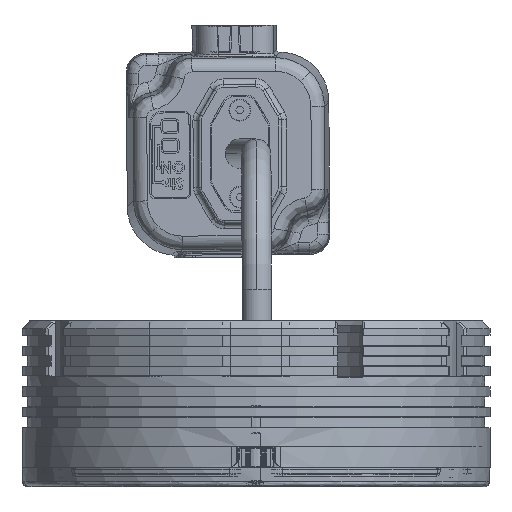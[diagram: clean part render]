
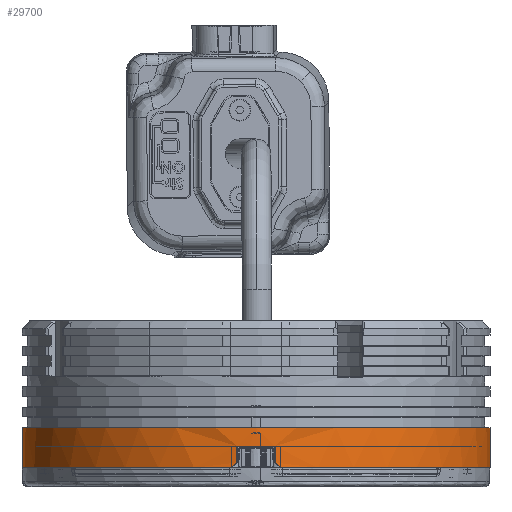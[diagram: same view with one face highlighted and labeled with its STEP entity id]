
A CAD part, front view. The second image highlights one B-rep face of the part: STEP entity #29700.
In plain terms, the highlighted cylindrical face has radius 43 mm (diameter 86 mm), a partial arc.
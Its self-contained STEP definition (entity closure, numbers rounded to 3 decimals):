
#1900 = DIRECTION ( 'NONE',  ( 1., 0., 0. ) ) ;
#3921 = CARTESIAN_POINT ( 'NONE',  ( -4.496, -42.764, 0. ) ) ;
#5030 = CIRCLE ( 'NONE', #51792, 43. ) ;
#7125 = CIRCLE ( 'NONE', #73457, 43. ) ;
#10443 = EDGE_CURVE ( 'NONE', #12827, #28230, #7125, .T. ) ;
#10616 = ORIENTED_EDGE ( 'NONE', *, *, #36300, .T. ) ;
#11012 = VERTEX_POINT ( 'NONE', #57530 ) ;
#12827 = VERTEX_POINT ( 'NONE', #48636 ) ;
#12965 = VERTEX_POINT ( 'NONE', #42457 ) ;
#13405 = EDGE_CURVE ( 'NONE', #31465, #12965, #59295, .T. ) ;
#17021 = CARTESIAN_POINT ( 'NONE',  ( 0., 0., 0. ) ) ;
#18878 = DIRECTION ( 'NONE',  ( 0., 0., -1. ) ) ;
#23086 = CARTESIAN_POINT ( 'NONE',  ( 0., 0., 0. ) ) ;
#23278 = ORIENTED_EDGE ( 'NONE', *, *, #67268, .T. ) ;
#23453 = ORIENTED_EDGE ( 'NONE', *, *, #65893, .F. ) ;
#23581 = VECTOR ( 'NONE', #87614, 1000. ) ;
#25293 = LINE ( 'NONE', #54153, #32770 ) ;
#26464 =( BOUNDED_CURVE ( )  B_SPLINE_CURVE ( 3, ( #3921, #39768, #47829, #68610 ),
 .UNSPECIFIED., .F., .F. ) 
 B_SPLINE_CURVE_WITH_KNOTS ( ( 4, 4 ),
 ( 1.548, 1.571 ),
 .UNSPECIFIED. ) 
 CURVE ( )  GEOMETRIC_REPRESENTATION_ITEM ( )  RATIONAL_B_SPLINE_CURVE ( ( 1., 1., 1., 1. ) ) 
 REPRESENTATION_ITEM ( '' )  );
#28230 = VERTEX_POINT ( 'NONE', #37341 ) ;
#29700 = ADVANCED_FACE ( 'NONE', ( #65015 ), #50392, .T. ) ;
#30067 = VECTOR ( 'NONE', #55254, 1000. ) ;
#31465 = VERTEX_POINT ( 'NONE', #55564 ) ;
#32770 = VECTOR ( 'NONE', #88572, 1000. ) ;
#33058 = CARTESIAN_POINT ( 'NONE',  ( 0., 0., 27. ) ) ;
#33170 = EDGE_LOOP ( 'NONE', ( #61083, #48446, #23278, #61272, #80008, #87154, #23453, #59296, #10616, #92007 ) ) ;
#33321 = DIRECTION ( 'NONE',  ( 0., 0., -1. ) ) ;
#34069 = VERTEX_POINT ( 'NONE', #89111 ) ;
#35243 = VERTEX_POINT ( 'NONE', #61896 ) ;
#36300 = EDGE_CURVE ( 'NONE', #72651, #34069, #91170, .T. ) ;
#37341 = CARTESIAN_POINT ( 'NONE',  ( -4.496, -42.764, 0. ) ) ;
#37402 = CIRCLE ( 'NONE', #57012, 43. ) ;
#37541 = AXIS2_PLACEMENT_3D ( 'NONE', #69316, #48043, #62226 ) ;
#37676 = EDGE_CURVE ( 'NONE', #86673, #11012, #91826, .T. ) ;
#37821 = DIRECTION ( 'NONE',  ( 0., 0., 1. ) ) ;
#38322 = EDGE_CURVE ( 'NONE', #85130, #72651, #62351, .T. ) ;
#39768 = CARTESIAN_POINT ( 'NONE',  ( -4.164, -42.799, 0.333 ) ) ;
#40333 = VECTOR ( 'NONE', #33321, 1000. ) ;
#40618 = DIRECTION ( 'NONE',  ( -1., 0., 0. ) ) ;
#42457 = CARTESIAN_POINT ( 'NONE',  ( -3.5, -42.857, 1. ) ) ;
#45377 = CARTESIAN_POINT ( 'NONE',  ( 4.496, -42.764, 0. ) ) ;
#46438 = AXIS2_PLACEMENT_3D ( 'NONE', #33058, #72108, #40618 ) ;
#47829 = CARTESIAN_POINT ( 'NONE',  ( -3.832, -42.83, 0.667 ) ) ;
#48043 = DIRECTION ( 'NONE',  ( 0., 0., 1. ) ) ;
#48446 = ORIENTED_EDGE ( 'NONE', *, *, #37676, .F. ) ;
#48636 = CARTESIAN_POINT ( 'NONE',  ( -43., 0., 0. ) ) ;
#49377 = LINE ( 'NONE', #85704, #40333 ) ;
#50392 = CYLINDRICAL_SURFACE ( 'NONE', #46438, 43. ) ;
#51021 = DIRECTION ( 'NONE',  ( 0., 0., 1. ) ) ;
#51308 = CARTESIAN_POINT ( 'NONE',  ( -3.5, -42.857, 4. ) ) ;
#51792 = AXIS2_PLACEMENT_3D ( 'NONE', #17021, #37821, #60032 ) ;
#54153 = CARTESIAN_POINT ( 'NONE',  ( -43., 0., 27. ) ) ;
#54358 = CARTESIAN_POINT ( 'NONE',  ( 3.5, -42.857, 1. ) ) ;
#55254 = DIRECTION ( 'NONE',  ( 0., 0., -1. ) ) ;
#55564 = CARTESIAN_POINT ( 'NONE',  ( -3.5, -42.857, 4. ) ) ;
#57012 = AXIS2_PLACEMENT_3D ( 'NONE', #75116, #18878, #83584 ) ;
#57450 = CARTESIAN_POINT ( 'NONE',  ( 3.5, -42.857, 4. ) ) ;
#57530 = CARTESIAN_POINT ( 'NONE',  ( 43., 0., 7.4 ) ) ;
#59296 = ORIENTED_EDGE ( 'NONE', *, *, #38322, .T. ) ;
#59295 = LINE ( 'NONE', #51308, #23581 ) ;
#60032 = DIRECTION ( 'NONE',  ( 1., 0., 0. ) ) ;
#60484 = CARTESIAN_POINT ( 'NONE',  ( 4.164, -42.799, 0.333 ) ) ;
#61083 = ORIENTED_EDGE ( 'NONE', *, *, #67374, .F. ) ;
#61272 = ORIENTED_EDGE ( 'NONE', *, *, #10443, .T. ) ;
#61896 = CARTESIAN_POINT ( 'NONE',  ( 43., 0., 0. ) ) ;
#62226 = DIRECTION ( 'NONE',  ( 1., 0., 0. ) ) ;
#62351 = LINE ( 'NONE', #91099, #30067 ) ;
#65015 = FACE_OUTER_BOUND ( 'NONE', #33170, .T. ) ;
#65893 = EDGE_CURVE ( 'NONE', #85130, #31465, #37402, .T. ) ;
#67268 = EDGE_CURVE ( 'NONE', #86673, #12827, #25293, .T. ) ;
#67374 = EDGE_CURVE ( 'NONE', #11012, #35243, #49377, .T. ) ;
#68610 = CARTESIAN_POINT ( 'NONE',  ( -3.5, -42.857, 1. ) ) ;
#69316 = CARTESIAN_POINT ( 'NONE',  ( 0., 0., 7.4 ) ) ;
#71103 = EDGE_CURVE ( 'NONE', #28230, #12965, #26464, .T. ) ;
#72108 = DIRECTION ( 'NONE',  ( 0., 0., -1. ) ) ;
#72651 = VERTEX_POINT ( 'NONE', #79792 ) ;
#73457 = AXIS2_PLACEMENT_3D ( 'NONE', #23086, #51021, #1900 ) ;
#75116 = CARTESIAN_POINT ( 'NONE',  ( 0., 0., 4. ) ) ;
#76496 = EDGE_CURVE ( 'NONE', #34069, #35243, #5030, .T. ) ;
#79511 = CARTESIAN_POINT ( 'NONE',  ( -43., 0., 7.4 ) ) ;
#79792 = CARTESIAN_POINT ( 'NONE',  ( 3.5, -42.857, 1. ) ) ;
#80008 = ORIENTED_EDGE ( 'NONE', *, *, #71103, .T. ) ;
#83125 = CARTESIAN_POINT ( 'NONE',  ( 3.832, -42.83, 0.667 ) ) ;
#83584 = DIRECTION ( 'NONE',  ( -1., 0., 0. ) ) ;
#85130 = VERTEX_POINT ( 'NONE', #57450 ) ;
#85704 = CARTESIAN_POINT ( 'NONE',  ( 43., 0., 27. ) ) ;
#86673 = VERTEX_POINT ( 'NONE', #79511 ) ;
#87154 = ORIENTED_EDGE ( 'NONE', *, *, #13405, .F. ) ;
#87614 = DIRECTION ( 'NONE',  ( 0., 0., -1. ) ) ;
#88572 = DIRECTION ( 'NONE',  ( 0., 0., -1. ) ) ;
#89111 = CARTESIAN_POINT ( 'NONE',  ( 4.496, -42.764, 0. ) ) ;
#91099 = CARTESIAN_POINT ( 'NONE',  ( 3.5, -42.857, 4. ) ) ;
#91170 =( BOUNDED_CURVE ( )  B_SPLINE_CURVE ( 3, ( #54358, #83125, #60484, #45377 ),
 .UNSPECIFIED., .F., .F. ) 
 B_SPLINE_CURVE_WITH_KNOTS ( ( 4, 4 ),
 ( 4.712, 4.736 ),
 .UNSPECIFIED. ) 
 CURVE ( )  GEOMETRIC_REPRESENTATION_ITEM ( )  RATIONAL_B_SPLINE_CURVE ( ( 1., 1., 1., 1. ) ) 
 REPRESENTATION_ITEM ( '' )  );
#91826 = CIRCLE ( 'NONE', #37541, 43. ) ;
#92007 = ORIENTED_EDGE ( 'NONE', *, *, #76496, .T. ) ;
